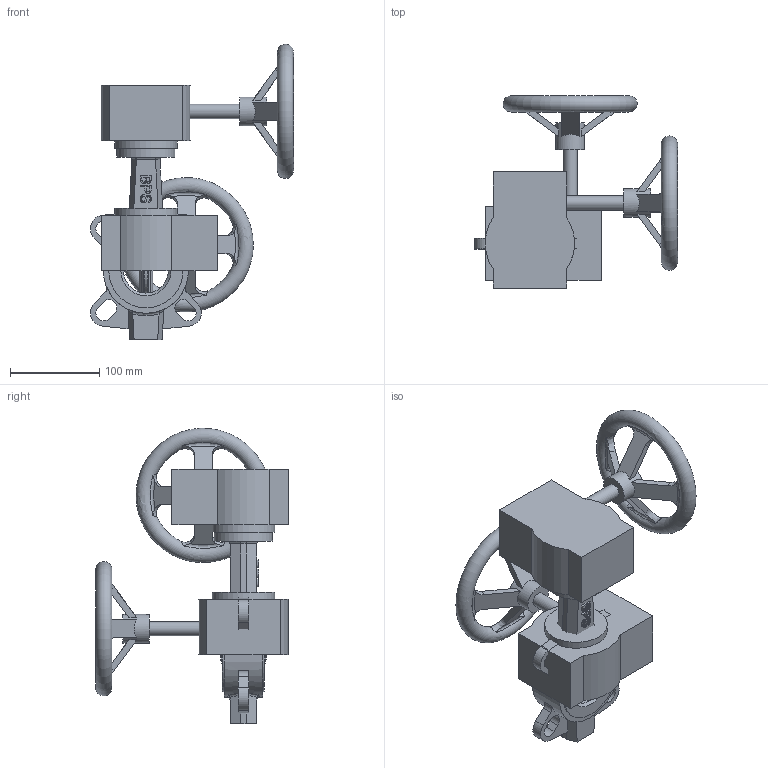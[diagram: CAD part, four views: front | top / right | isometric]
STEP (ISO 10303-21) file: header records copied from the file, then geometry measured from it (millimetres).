
FILE_DESCRIPTION( ( 'Unknown' ), '1' );
FILE_NAME( 'R:/ECCUA/ROOTSI BPS 3D vidinad/Poordklapid Wafer type/Butterfly valve(wafer) with gearbox BPS/STEP formaat/BPS 2303050VX butterfly valve DN50.stp', 'Unknown', ( 'Unknown' ), ( 'Unknown' ), 'PSStep 10.1', 'Unknown', ' ' );
FILE_SCHEMA( ( 'AUTOMOTIVE_DESIGN { 1 0 10303 214 1 1 1 1 }' ) );
Length unit declared in the file: millimetre
Products named in the file (3): Assem1; Butterfly valve wafer type DN50 BPS var2; Gearbox DN40-80 BPS
Bounding box: 226.96 x 214.99 x 329.93 mm (x, y, z)
Volume: 2676704.6 mm3; surface area: 326203.8 mm2
Topology: 4 solids, 4 shells, 482 faces, 1272 edges, 840 vertices
Faces by surface type: plane 218, cylinder 102, extrusion 84, bspline 56, torus 18, cone 4
Full cylindrical faces by diameter (mm): 7 x8, 16 x4, 32 x2, 50 x2, 65 x2, 70 x2, 83 x4, 95 x2
Entity records: 15206 total; most frequent: CARTESIAN_POINT 7704, ORIENTED_EDGE 1216, DIRECTION 938, EDGE_CURVE 608, VERTEX_POINT 412, VECTOR 318, AXIS2_PLACEMENT_3D 310, EDGE_LOOP 308
